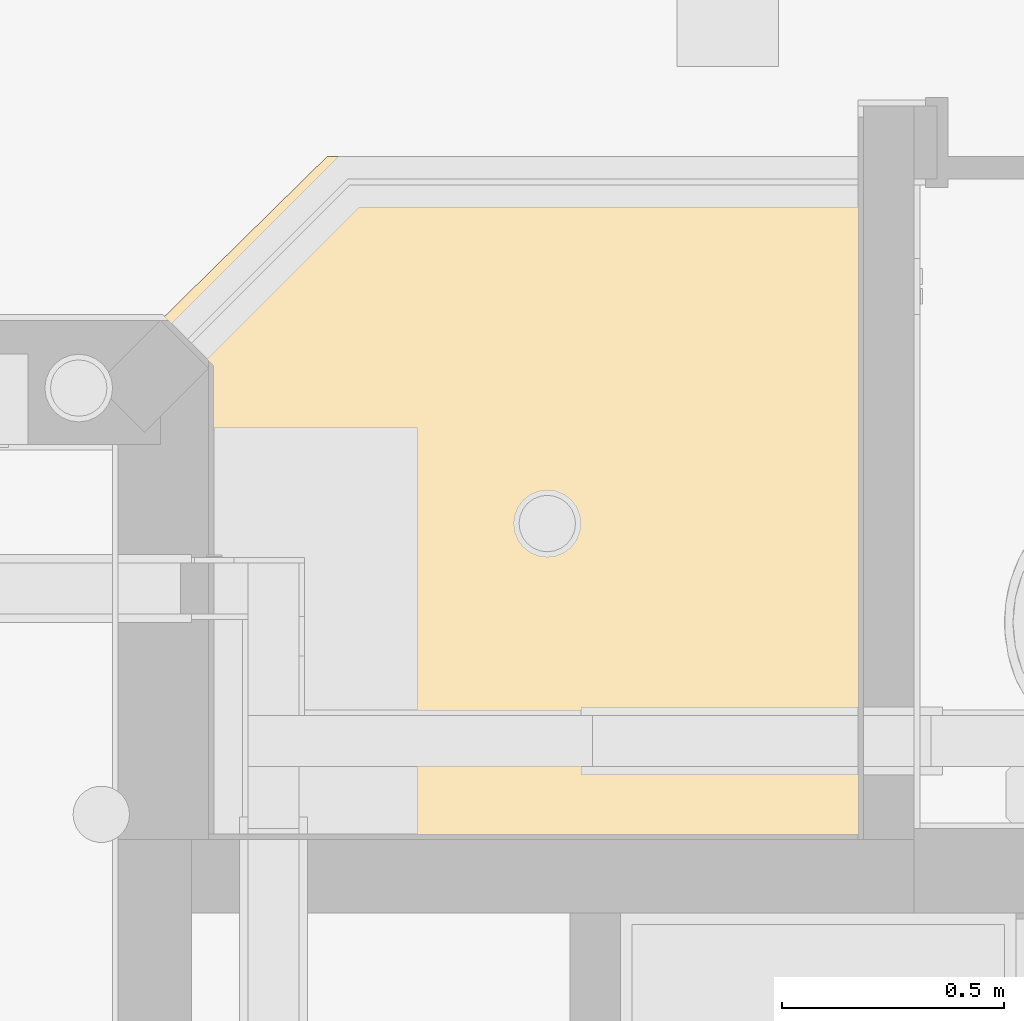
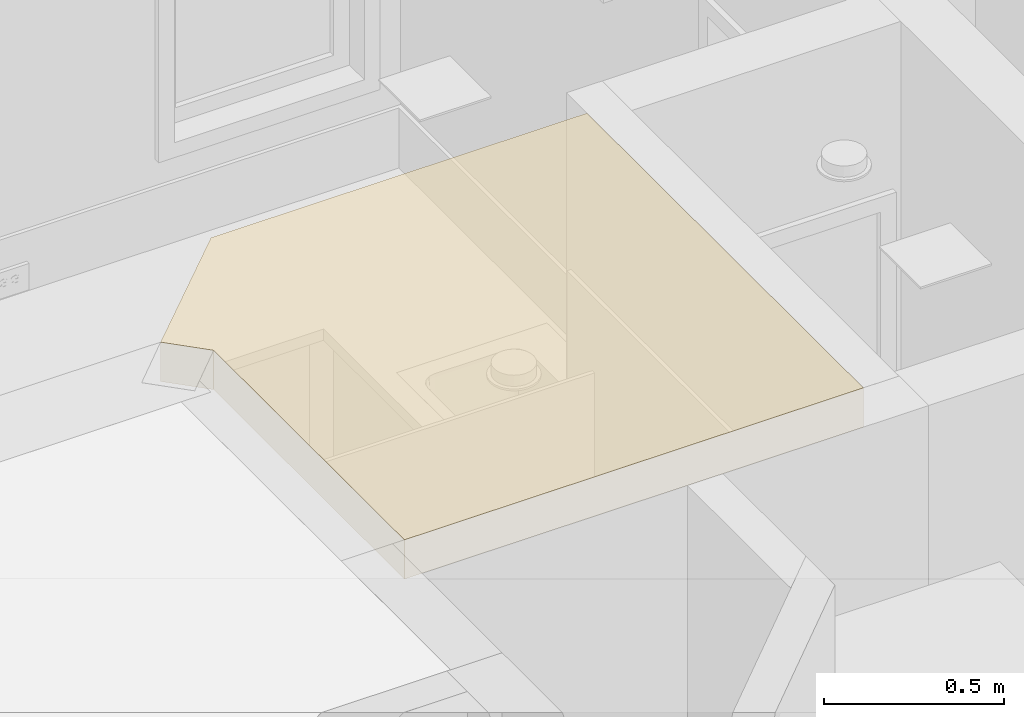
# One storey, part 33 of 60: 1 covering.
"""IFC2X3 building model written with IfcOpenShell, lengths in feet."""

from ifc_helpers import new_model, entity, si_unit, converted_unit, direction, frame, origin, place, context, subcontext, project, spatial, faceted_brep, material, layer, layer_set, layer_usage, type_object, element, save


model = new_model("IFC2X3")

# Units and contexts
model_context = context("Model", 3, precision=0.0001, world=origin(), true_north=direction((6.123031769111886e-17, 1.0)))
plan_context = context("Plan", 3, precision=0.0001, world=origin(), true_north=direction((6.123031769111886e-17, 1.0)))
body_context = subcontext(model_context, "Body", "Model", "MODEL_VIEW")
ifc_project = project(units=[converted_unit("LENGTHUNIT", "FOOT", entity("IfcLengthMeasure", 0.3048), si_unit("LENGTHUNIT", "METRE"), dimensions=[1, 0, 0, 0, 0, 0, 0]), converted_unit("AREAUNIT", "SQUARE FOOT", entity("IfcAreaMeasure", 0.09290304), si_unit("AREAUNIT", "SQUARE_METRE"), dimensions=[2, 0, 0, 0, 0, 0, 0]), converted_unit("PLANEANGLEUNIT", "DEGREE", entity("IfcPlaneAngleMeasure", 0.017453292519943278), si_unit("PLANEANGLEUNIT", "RADIAN"), dimensions=[0, 0, 0, 0, 0, 0, 0])], contexts=[model_context, plan_context])

# Site, building, storey
site_placement = place(None, origin())
site = spatial("IfcSite", under=ifc_project, at=site_placement, Name="Default", CompositionType="ELEMENT")
building_placement = place(site_placement, origin())
building = spatial("IfcBuilding", under=site, at=building_placement, CompositionType="ELEMENT")
storey_placement = place(building_placement, origin())
storey = spatial("IfcBuildingStorey", under=building, at=storey_placement, Name="First floor", CompositionType="ELEMENT", Elevation=0.0)

# Covering
ifc_material = material(Name="Default New Material")
ifc_layer = layer(ifc_material, 0.4375)
ifc_layer_set = layer_set([ifc_layer], Name="Compound Ceiling:Ceiling_5.25\"")
ifc_layer_usage = layer_usage(ifc_layer_set, "AXIS3", "NEGATIVE", 0.4375)
covering_type = type_object("IfcCoveringType", Name="Compound Ceiling:Ceiling_5.25\"", PredefinedType="CEILING")
covering_placement = place(storey_placement, frame((-0.9791666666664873, 33.50000000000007, 20.229166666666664)))
element("IfcCovering", 1, at=covering_placement, inside=storey, type_object=covering_type, material=ifc_layer_usage, Name="Compound Ceiling:Ceiling_5.25\"", ObjectType="Compound Ceiling:Ceiling_5.25\"", PredefinedType="CEILING", context=body_context, shape_type="Brep", body=[
    faceted_brep([(0.3541666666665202, 3.479166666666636, 0.4375), (0.3541666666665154, 0.0, 0.4375), (5.187499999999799, 0.0, 0.4375), (5.187499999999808, 5.041666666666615, 0.4375), (1.2286910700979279, 5.041666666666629, 0.4375), (0.0, 3.833333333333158, 0.4375), (5.187499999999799, 0.0, 0.0), (3.034588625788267, 2.2291666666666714, 0.0), (3.0554012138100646, 2.279412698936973, 0.0), (3.0014805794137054, 2.1860194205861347, 0.0), (3.062499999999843, 2.3333333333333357, 0.0), (2.958333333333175, 2.152911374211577, 0.0), (2.908087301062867, 2.132098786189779, 0.0), (2.854166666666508, 2.125, 0.0), (0.3541666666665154, 0.0, 0.0), (5.187499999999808, 5.041666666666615, 0.0), (2.8002460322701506, 2.132098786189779, 0.0), (2.749999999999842, 2.152911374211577, 0.0), (2.7068527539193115, 2.186019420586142, 0.0), (2.673744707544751, 2.2291666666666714, 0.0), (2.652932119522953, 2.27941269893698, 0.0), (0.3541666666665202, 3.479166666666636, 0.0), (2.645833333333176, 2.3333333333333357, 0.0), (2.652932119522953, 2.3872539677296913, 0.0), (2.673744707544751, 2.4375, 0.0), (2.7068527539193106, 2.4806472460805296, 0.0), (2.749999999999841, 2.5137552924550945, 0.0), (1.228691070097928, 5.041666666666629, 0.0), (0.0, 3.833333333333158, 0.0), (2.9080873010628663, 2.5345678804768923, 0.0), (2.854166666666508, 2.5416666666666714, 0.0), (2.8002460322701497, 2.5345678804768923, 0.0), (3.0554012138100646, 2.3872539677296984, 0.0), (3.034588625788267, 2.437500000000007, 0.0), (3.0014805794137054, 2.4806472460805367, 0.0), (2.958333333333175, 2.5137552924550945, 0.0), (2.958333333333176, 2.152911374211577, 0.1250000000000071), (2.9080873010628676, 2.132098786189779, 0.1250000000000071), (2.854166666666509, 2.125, 0.1250000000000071), (2.8002460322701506, 2.132098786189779, 0.1250000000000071), (2.749999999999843, 2.152911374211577, 0.1250000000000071), (2.7068527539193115, 2.1860194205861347, 0.1250000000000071), (2.673744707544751, 2.2291666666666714, 0.1250000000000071), (2.652932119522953, 2.27941269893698, 0.1250000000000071), (2.645833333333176, 2.3333333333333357, 0.1250000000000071), (2.6529321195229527, 2.3872539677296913, 0.1250000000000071), (2.67374470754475, 2.4375, 0.1250000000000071), (2.7068527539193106, 2.4806472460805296, 0.1250000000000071), (2.7499999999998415, 2.5137552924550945, 0.1250000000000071), (2.8002460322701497, 2.5345678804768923, 0.1250000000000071), (2.854166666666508, 2.5416666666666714, 0.1250000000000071), (2.9080873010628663, 2.5345678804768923, 0.1250000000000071), (2.9583333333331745, 2.5137552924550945, 0.1250000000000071), (3.0014805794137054, 2.4806472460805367, 0.1250000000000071), (3.034588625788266, 2.4375, 0.1250000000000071), (3.0554012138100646, 2.3872539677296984, 0.1250000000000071), (3.062499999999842, 2.3333333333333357, 0.1250000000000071), (3.0554012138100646, 2.27941269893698, 0.1250000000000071), (3.034588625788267, 2.2291666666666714, 0.1250000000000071), (3.0014805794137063, 2.186019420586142, 0.1250000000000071)], [[[0, 1, 2, 3, 4, 5]], [[6, 7, 8]], [[7, 6, 9]], [[6, 8, 10]], [[11, 9, 6]], [[12, 11, 6]], [[13, 12, 6]], [[6, 14, 13]], [[10, 15, 6]], [[16, 13, 14]], [[17, 16, 14]], [[18, 17, 14]], [[14, 19, 18]], [[19, 14, 20]], [[20, 14, 21]], [[21, 22, 20]], [[21, 23, 22]], [[21, 24, 23]], [[25, 24, 21]], [[25, 21, 26]], [[21, 27, 26]], [[28, 27, 21]], [[15, 29, 27]], [[27, 29, 30]], [[31, 26, 27]], [[31, 27, 30]], [[10, 32, 15]], [[33, 15, 32]], [[15, 33, 34]], [[34, 35, 15]], [[35, 29, 15]], [[2, 1, 14, 6]], [[3, 2, 6, 15]], [[4, 3, 15, 27]], [[5, 4, 27, 28]], [[0, 5, 28, 21]], [[1, 0, 21, 14]], [[36, 37, 38, 39, 40, 41, 42, 43, 44, 45, 46, 47, 48, 49, 50, 51, 52, 53, 54, 55, 56, 57, 58, 59]], [[44, 22, 23, 45]], [[45, 23, 24, 46]], [[48, 47, 25, 26]], [[25, 47, 46, 24]], [[49, 48, 26, 31]], [[49, 31, 30, 50]], [[50, 30, 29, 51]], [[51, 29, 35, 52]], [[34, 53, 52, 35]], [[33, 54, 53, 34]], [[33, 32, 55, 54]], [[10, 56, 55, 32]], [[56, 10, 8, 57]], [[57, 8, 7, 58]], [[36, 59, 9, 11]], [[9, 59, 58, 7]], [[37, 36, 11, 12]], [[37, 12, 13, 38]], [[16, 39, 38, 13]], [[43, 42, 19, 20]], [[41, 18, 19, 42]], [[43, 20, 22, 44]], [[17, 40, 39, 16]], [[17, 18, 41, 40]]]),
])

save(model, "model.ifc")
